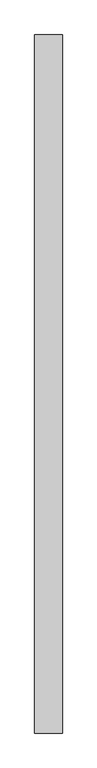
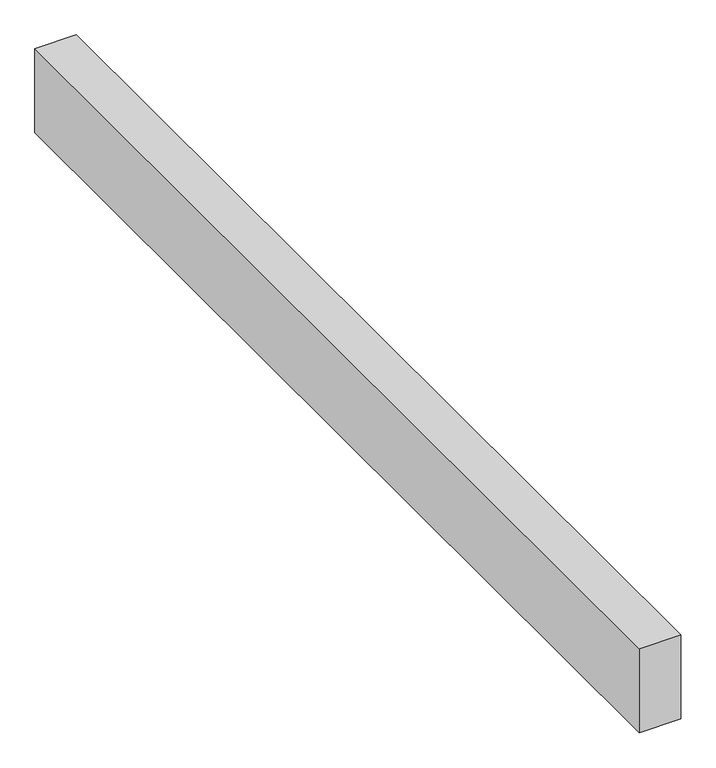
"""IFC4 building model written with IfcOpenShell, lengths in millimetres: proxy geometry."""

from ifc_helpers import new_model, si_unit, frame, origin, place, context, project, spatial, polyline, outline, extrude, source, transform, mapped, element, save


def structural_framing_05d64cc5(model_context):
    return source(origin(), model_context, "Body", "SweptSolid", [
        extrude(outline(polyline([(70.0, -1767.4), (-70.0, -1767.4), (-70.0, 1767.4), (70.0, 1767.4), (70.0, -1767.4)])), frame((0.0, 0.0, -300.0), z_axis=(0.0, 0.0, 1.0), x_axis=(1.0, 0.0, 0.0)), (0.0, 0.0, 1.0), 300.0),
    ])


if __name__ == "__main__":
    model = new_model("IFC4")
    model_context = context("Model", 3, world=origin())
    ifc_project = project(units=[si_unit("LENGTHUNIT", "METRE", prefix="MILLI")], contexts=[model_context])
    site = spatial("IfcSite", under=ifc_project)
    building = spatial("IfcBuilding", under=site)
    placement = place(None, origin())
    structural_framing_shape = structural_framing_05d64cc5(model_context)
    element("IfcBuildingElementProxy", 1, Name="Structural Framing", at=placement, inside=building, context=model_context, shape_type="MappedRepresentation", body=[
        mapped(structural_framing_shape, transform((0.0, 0.0, 0.0), x_axis=(1.0, 0.0, 0.0), y_axis=(0.0, 1.0, 0.0), z_axis=(0.0, 0.0, 1.0))),
    ])
    save(model, "model.ifc")
